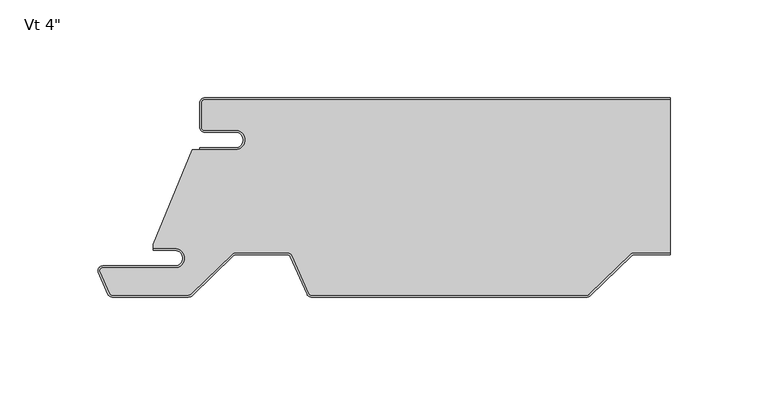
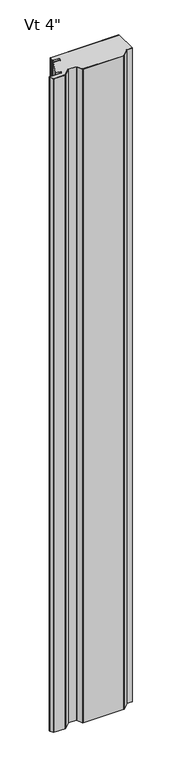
"""IFC4 building model written with IfcOpenShell, lengths in millimetres: plate geometry."""

from ifc_helpers import new_model, si_unit, point, frame_2d, origin, origin_with_axes, place, context, project, spatial, polyline, circle_curve, trimmed, segment, composite_curve, outline, extrude, source, transform, mapped, element, save


def plate_a2a39dc9(model_context):
    return source(origin(), model_context, "Body", "SweptSolid", [
        extrude(outline(composite_curve([segment(trimmed(circle_curve(frame_2d((-101.3499998, -21.4324412)), 4.96875), [point((-101.3499998, -26.4011912))], [point((-101.3499998, -16.4636912))], True, "CARTESIAN"), True, "CONTINUOUS"), segment(polyline([(-101.3499998, -16.4636912), (-117.2249998, -16.4636912)]), True, "CONTINUOUS"), segment(trimmed(circle_curve(frame_2d((-117.2249998, -15.0824412)), 1.38125), [point((-117.2249998, -16.4636912))], [point((-118.6062498, -15.0824412))], False, "CARTESIAN"), True, "CONTINUOUS"), segment(polyline([(-118.6062498, -15.0824412), (-118.6062498, -2.3824412)]), True, "CONTINUOUS"), segment(trimmed(circle_curve(frame_2d((-117.2249998, -2.3824412)), 1.38125), [point((-118.6062498, -2.3824412))], [point((-117.2249998, -1.0011912))], False, "CARTESIAN"), True, "CONTINUOUS"), segment(polyline([(-117.2249998, -1.0011912), (120.3999998, -1.0011912), (120.3999998, -79.0862), (101.8679504, -79.0862)]), True, "CONTINUOUS"), segment(trimmed(circle_curve(frame_2d((101.8679504, -81.6737)), 2.5875), [point((101.8679504, -79.0862))], [point((100.0682998, -79.8145567))], True, "CARTESIAN"), True, "CONTINUOUS"), segment(polyline([(100.0682998, -79.8145567), (78.9973964, -100.2111912)]), True, "CONTINUOUS"), segment(trimmed(circle_curve(frame_2d((78.0367133, -99.21875)), 1.38125), [point((78.9973964, -100.2111912))], [point((78.0367133, -100.6))], False, "CARTESIAN"), True, "CONTINUOUS"), segment(polyline([(78.0367133, -100.6), (-62.6999941, -100.6)]), True, "CONTINUOUS"), segment(trimmed(circle_curve(frame_2d((-62.6999941, -99.21875)), 1.38125), [point((-62.6999941, -100.6))], [point((-63.9629944, -99.7779296))], False, "CARTESIAN"), True, "CONTINUOUS"), segment(polyline([(-63.9629944, -99.7779296), (-72.4422193, -80.6261871)]), True, "CONTINUOUS"), segment(trimmed(circle_curve(frame_2d((-74.8082017, -81.6737)), 2.5875), [point((-72.4422193, -80.6261871))], [point((-74.8082017, -79.0862))], True, "CARTESIAN"), True, "CONTINUOUS"), segment(polyline([(-74.8082017, -79.0862), (-101.3320496, -79.0862)]), True, "CONTINUOUS"), segment(trimmed(circle_curve(frame_2d((-101.3320496, -81.6737)), 2.5875), [point((-101.3320496, -79.0862))], [point((-103.1317002, -79.8145567))], True, "CARTESIAN"), True, "CONTINUOUS"), segment(polyline([(-103.1317002, -79.8145567), (-123.993943, -100.0092077)]), True, "CONTINUOUS"), segment(trimmed(circle_curve(frame_2d((-125.4536944, -98.5012)), 2.0988), [point((-123.993943, -100.0092077))], [point((-125.4536944, -100.6))], False, "CARTESIAN"), True, "CONTINUOUS"), segment(polyline([(-125.4536944, -100.6), (-164.2999941, -100.6)]), True, "CONTINUOUS"), segment(trimmed(circle_curve(frame_2d((-164.2999941, -99.21875)), 1.38125), [point((-164.2999941, -100.6))], [point((-165.5629944, -99.7779296))], False, "CARTESIAN"), True, "CONTINUOUS"), segment(polyline([(-165.5629944, -99.7779296), (-170.4824051, -88.6666208)]), True, "CONTINUOUS"), segment(trimmed(circle_curve(frame_2d((-169.2194048, -88.1074412)), 1.38125), [point((-170.4824051, -88.6666208))], [point((-169.2194048, -86.7261912))], False, "CARTESIAN"), True, "CONTINUOUS"), segment(polyline([(-169.2194048, -86.7261912), (-132.3062498, -86.7261912)]), True, "CONTINUOUS"), segment(trimmed(circle_curve(frame_2d((-132.3062498, -81.7574412)), 4.96875), [point((-132.3062498, -86.7261912))], [point((-132.3062498, -76.7886912))], True, "CARTESIAN"), True, "CONTINUOUS"), segment(polyline([(-132.3062498, -76.7886912), (-143.4187498, -76.7886912), (-143.4187498, -74.633822), (-123.597661, -26.4011912), (-101.3499998, -26.4011912)]), True, "CONTINUOUS")], self_intersect=False)), origin_with_axes(), (0.0, 0.0, 1.0), 2400.0),
        extrude(outline(composite_curve([segment(polyline([(-119.6062498, -25.4), (-101.3499998, -25.4)]), True, "CONTINUOUS"), segment(trimmed(circle_curve(frame_2d((-101.3499998, -21.43125)), 3.96875), [point((-101.3499998, -25.4))], [point((-101.3499998, -17.4625))], True, "CARTESIAN"), True, "CONTINUOUS"), segment(polyline([(-101.3499998, -17.4625), (-117.2249998, -17.4625)]), True, "CONTINUOUS"), segment(trimmed(circle_curve(frame_2d((-117.2249998, -15.08125)), 2.38125), [point((-117.2249998, -17.4625))], [point((-119.6062498, -15.08125))], False, "CARTESIAN"), True, "CONTINUOUS"), segment(polyline([(-119.6062498, -15.08125), (-119.6062498, -2.38125)]), True, "CONTINUOUS"), segment(trimmed(circle_curve(frame_2d((-117.2249998, -2.38125)), 2.38125), [point((-119.6062498, -2.38125))], [point((-117.2249998, 0.0))], False, "CARTESIAN"), True, "CONTINUOUS"), segment(polyline([(-117.2249998, 0.0), (120.3999998, 0.0), (120.3999998, -1.0), (-117.2249998, -1.0)]), True, "CONTINUOUS"), segment(trimmed(circle_curve(frame_2d((-117.2249998, -2.38125)), 1.38125), [point((-117.2249998, -1.0))], [point((-118.6062498, -2.38125))], True, "CARTESIAN"), True, "CONTINUOUS"), segment(polyline([(-118.6062498, -2.38125), (-118.6062498, -15.08125)]), True, "CONTINUOUS"), segment(trimmed(circle_curve(frame_2d((-117.2249998, -15.08125)), 1.38125), [point((-118.6062498, -15.08125))], [point((-117.2249998, -16.4625))], True, "CARTESIAN"), True, "CONTINUOUS"), segment(polyline([(-117.2249998, -16.4625), (-101.3499998, -16.4625)]), True, "CONTINUOUS"), segment(trimmed(circle_curve(frame_2d((-101.3499998, -21.43125)), 4.96875), [point((-101.3499998, -16.4625))], [point((-101.3499998, -26.4))], False, "CARTESIAN"), True, "CONTINUOUS"), segment(polyline([(-101.3499998, -26.4), (-119.6062498, -26.4), (-119.6062498, -25.4)]), True, "CONTINUOUS")], self_intersect=False)), origin_with_axes(), (0.0, 0.0, 1.0), 2400.0),
        extrude(outline(composite_curve([segment(trimmed(circle_curve(frame_2d((-132.3062498, -81.7574412)), 3.96875), [point((-132.3062498, -85.7261912))], [point((-132.3062498, -77.7886912))], True, "CARTESIAN"), True, "CONTINUOUS"), segment(polyline([(-132.3062498, -77.7886912), (-143.4187498, -77.7886912), (-143.4187498, -76.7886912), (-132.3062498, -76.7886912)]), True, "CONTINUOUS"), segment(trimmed(circle_curve(frame_2d((-132.3062498, -81.7574412)), 4.96875), [point((-132.3062498, -76.7886912))], [point((-132.3062498, -86.7261912))], False, "CARTESIAN"), True, "CONTINUOUS"), segment(polyline([(-132.3062498, -86.7261912), (-169.2194048, -86.7261912)]), True, "CONTINUOUS"), segment(trimmed(circle_curve(frame_2d((-169.2194048, -88.1074412)), 1.38125), [point((-169.2194048, -86.7261912))], [point((-170.4824051, -88.6666208))], True, "CARTESIAN"), True, "CONTINUOUS"), segment(polyline([(-170.4824051, -88.6666208), (-165.5629944, -99.7779296)]), True, "CONTINUOUS"), segment(trimmed(circle_curve(frame_2d((-164.2999941, -99.21875)), 1.38125), [point((-165.5629944, -99.7779296))], [point((-164.2999941, -100.6))], True, "CARTESIAN"), True, "CONTINUOUS"), segment(polyline([(-164.2999941, -100.6), (-125.4536944, -100.6)]), True, "CONTINUOUS"), segment(trimmed(circle_curve(frame_2d((-125.4536944, -98.5012)), 2.0988), [point((-125.4536944, -100.6))], [point((-123.993943, -100.0092077))], True, "CARTESIAN"), True, "CONTINUOUS"), segment(polyline([(-123.993943, -100.0092077), (-103.1317002, -79.8145567)]), True, "CONTINUOUS"), segment(trimmed(circle_curve(frame_2d((-101.3320496, -81.6737)), 2.5875), [point((-103.1317002, -79.8145567))], [point((-101.3320496, -79.0862))], False, "CARTESIAN"), True, "CONTINUOUS"), segment(polyline([(-101.3320496, -79.0862), (-74.8082017, -79.0862)]), True, "CONTINUOUS"), segment(trimmed(circle_curve(frame_2d((-74.8082017, -81.6737)), 2.5875), [point((-74.8082017, -79.0862))], [point((-72.4422193, -80.6261871))], False, "CARTESIAN"), True, "CONTINUOUS"), segment(polyline([(-72.4422193, -80.6261871), (-63.9629944, -99.7779296)]), True, "CONTINUOUS"), segment(trimmed(circle_curve(frame_2d((-62.6999941, -99.21875)), 1.38125), [point((-63.9629944, -99.7779296))], [point((-62.6999941, -100.6))], True, "CARTESIAN"), True, "CONTINUOUS"), segment(polyline([(-62.6999941, -100.6), (78.0367133, -100.6)]), True, "CONTINUOUS"), segment(trimmed(circle_curve(frame_2d((78.0367133, -99.21875)), 1.38125), [point((78.0367133, -100.6))], [point((78.9973964, -100.2111912))], True, "CARTESIAN"), True, "CONTINUOUS"), segment(polyline([(78.9973964, -100.2111912), (100.0682998, -79.8145567)]), True, "CONTINUOUS"), segment(trimmed(circle_curve(frame_2d((101.8679504, -81.6737)), 2.5875), [point((100.0682998, -79.8145567))], [point((101.8679504, -79.0862))], False, "CARTESIAN"), True, "CONTINUOUS"), segment(polyline([(101.8679504, -79.0862), (120.3999998, -79.0862), (120.3999998, -80.0862), (101.8679504, -80.0862)]), True, "CONTINUOUS"), segment(trimmed(circle_curve(frame_2d((101.8679504, -81.6737)), 1.5875), [point((101.8679504, -80.0862))], [point((100.7638169, -80.5330662))], True, "CARTESIAN"), True, "CONTINUOUS"), segment(polyline([(100.7638169, -80.5330662), (79.6929135, -100.9297007)]), True, "CONTINUOUS"), segment(trimmed(circle_curve(frame_2d((78.0367133, -99.21875)), 2.38125), [point((79.6929135, -100.9297007))], [point((78.0367133, -101.6))], False, "CARTESIAN"), True, "CONTINUOUS"), segment(polyline([(78.0367133, -101.6), (-62.6999941, -101.6)]), True, "CONTINUOUS"), segment(trimmed(circle_curve(frame_2d((-62.6999941, -99.21875)), 2.38125), [point((-62.6999941, -101.6))], [point((-64.8773838, -100.1827655))], False, "CARTESIAN"), True, "CONTINUOUS"), segment(polyline([(-64.8773838, -100.1827655), (-73.3566086, -81.031023)]), True, "CONTINUOUS"), segment(trimmed(circle_curve(frame_2d((-74.8082017, -81.6737)), 1.5875), [point((-73.3566086, -81.031023))], [point((-74.8082017, -80.0862))], True, "CARTESIAN"), True, "CONTINUOUS"), segment(polyline([(-74.8082017, -80.0862), (-101.3320496, -80.0862)]), True, "CONTINUOUS"), segment(trimmed(circle_curve(frame_2d((-101.3320496, -81.6737)), 1.5875), [point((-101.3320496, -80.0862))], [point((-102.4361831, -80.5330662))], True, "CARTESIAN"), True, "CONTINUOUS"), segment(polyline([(-102.4361831, -80.5330662), (-123.2984258, -100.7277172)]), True, "CONTINUOUS"), segment(trimmed(circle_curve(frame_2d((-125.4536944, -98.5012)), 3.0988), [point((-123.2984258, -100.7277172))], [point((-125.4536944, -101.6))], False, "CARTESIAN"), True, "CONTINUOUS"), segment(polyline([(-125.4536944, -101.6), (-164.2999941, -101.6)]), True, "CONTINUOUS"), segment(trimmed(circle_curve(frame_2d((-164.2999941, -99.21875)), 2.38125), [point((-164.2999941, -101.6))], [point((-166.4773838, -100.1827655))], False, "CARTESIAN"), True, "CONTINUOUS"), segment(polyline([(-166.4773838, -100.1827655), (-171.3967944, -89.0714567)]), True, "CONTINUOUS"), segment(trimmed(circle_curve(frame_2d((-169.2194048, -88.1074412)), 2.38125), [point((-171.3967944, -89.0714567))], [point((-169.2194048, -85.7261912))], False, "CARTESIAN"), True, "CONTINUOUS"), segment(polyline([(-169.2194048, -85.7261912), (-132.3062498, -85.7261912)]), True, "CONTINUOUS")], self_intersect=False)), origin_with_axes(), (0.0, 0.0, 1.0), 2400.0),
    ])


if __name__ == "__main__":
    model = new_model("IFC4")
    model_context = context("Model", 3, world=origin())
    ifc_project = project(units=[si_unit("LENGTHUNIT", "METRE", prefix="MILLI")], contexts=[model_context])
    site = spatial("IfcSite", under=ifc_project)
    building = spatial("IfcBuilding", under=site)
    placement = place(None, origin())
    plate_shape = plate_a2a39dc9(model_context)
    element("IfcPlate", 1, ObjectType="KIP-12-DWR-R19-CP-Vt-A : Vt 4\"", at=placement, inside=building, context=model_context, shape_type="MappedRepresentation", body=[
        mapped(plate_shape, transform((0.0, 0.0, 0.0), x_axis=(1.0, 0.0, 0.0), y_axis=(0.0, 1.0, 0.0), z_axis=(0.0, 0.0, 1.0))),
    ])
    save(model, "model.ifc")
